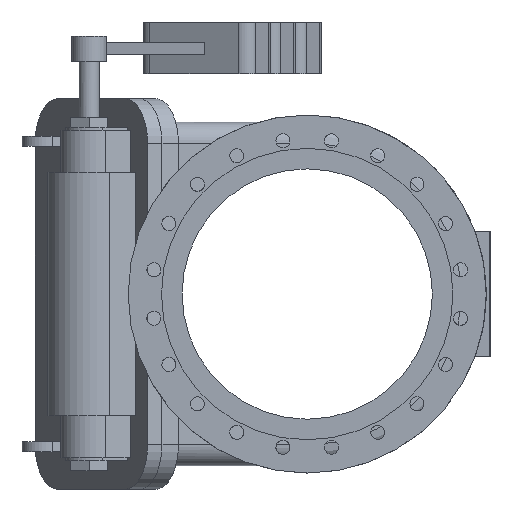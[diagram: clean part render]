
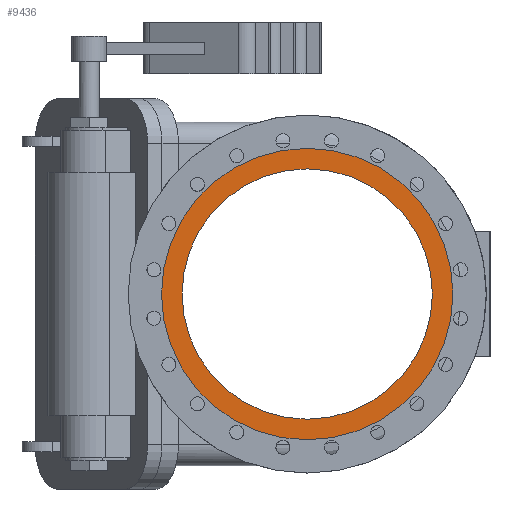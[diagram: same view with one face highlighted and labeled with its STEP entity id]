
A CAD part, left-side view. The second image highlights one B-rep face of the part: STEP entity #9436.
In plain terms, the highlighted planar face has unit normal (-1, 0, 0).
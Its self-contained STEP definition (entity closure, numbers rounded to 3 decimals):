
#677 = EDGE_CURVE ( 'NONE', #26591, #26591, #28971, .T. ) ;
#734 = EDGE_CURVE ( 'NONE', #26604, #26604, #29041, .T. ) ;
#1029 = AXIS2_PLACEMENT_3D ( 'NONE', #15607, #15608, #15639 ) ;
#1055 = AXIS2_PLACEMENT_3D ( 'NONE', #22380, #22360, #22353 ) ;
#9436 = ADVANCED_FACE ( 'NONE', ( #25777, #25787 ), #23743, .F. ) ;
#14785 = CARTESIAN_POINT ( 'NONE',  ( -1100., 0., 250. ) ) ;
#14796 = CARTESIAN_POINT ( 'NONE',  ( -1100., 0., 291. ) ) ;
#15607 = CARTESIAN_POINT ( 'NONE',  ( -1100., 0., 0. ) ) ;
#15608 = DIRECTION ( 'NONE',  ( -1., 0., 0. ) ) ;
#15639 = DIRECTION ( 'NONE',  ( 0., 0., 1. ) ) ;
#22353 = DIRECTION ( 'NONE',  ( 0., 0., 1. ) ) ;
#22360 = DIRECTION ( 'NONE',  ( -1., 0., 0. ) ) ;
#22380 = CARTESIAN_POINT ( 'NONE',  ( -1100., 0., 0. ) ) ;
#23738 = CARTESIAN_POINT ( 'NONE',  ( -1100., 0., 0. ) ) ;
#23743 = PLANE ( 'NONE',  #25235 ) ;
#23748 = DIRECTION ( 'NONE',  ( 1., 0., 0. ) ) ;
#23749 = DIRECTION ( 'NONE',  ( 0., 0., -1. ) ) ;
#25235 = AXIS2_PLACEMENT_3D ( 'NONE', #23738, #23748, #23749 ) ;
#25777 = FACE_OUTER_BOUND ( 'NONE', #28442, .T. ) ;
#25787 = FACE_BOUND ( 'NONE', #28416, .T. ) ;
#26591 = VERTEX_POINT ( 'NONE', #14785 ) ;
#26604 = VERTEX_POINT ( 'NONE', #14796 ) ;
#28244 = ORIENTED_EDGE ( 'NONE', *, *, #677, .F. ) ;
#28245 = ORIENTED_EDGE ( 'NONE', *, *, #734, .T. ) ;
#28416 = EDGE_LOOP ( 'NONE', ( #28244 ) ) ;
#28442 = EDGE_LOOP ( 'NONE', ( #28245 ) ) ;
#28971 = CIRCLE ( 'NONE', #1029, 250. ) ;
#29041 = CIRCLE ( 'NONE', #1055, 291. ) ;
